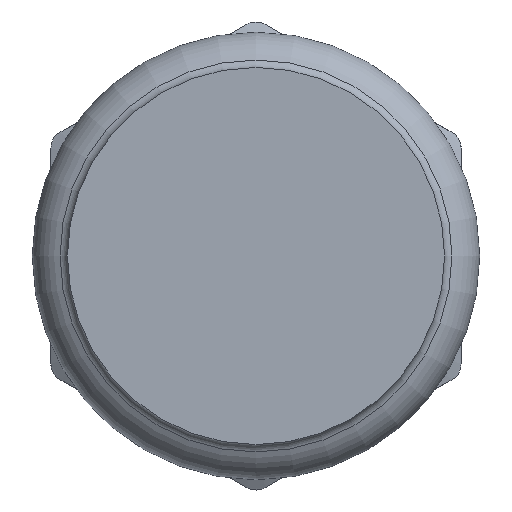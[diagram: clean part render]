
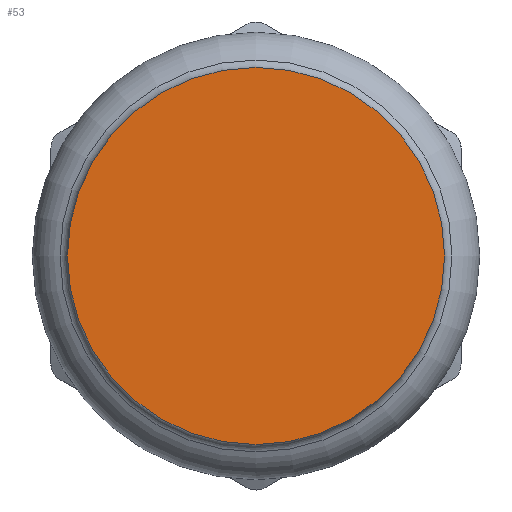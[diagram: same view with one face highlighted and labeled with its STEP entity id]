
A CAD part, front view. The second image highlights one B-rep face of the part: STEP entity #53.
In plain terms, the highlighted planar face has unit normal (0, -1, 0).
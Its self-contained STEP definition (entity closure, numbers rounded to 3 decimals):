
#53=ADVANCED_FACE('',(#78),#80,.F.);
#78=FACE_BOUND('',#79,.T.);
#79=EDGE_LOOP('',(#275));
#80=PLANE('',#81);
#81=AXIS2_PLACEMENT_3D('',#82,#83,#84);
#82=CARTESIAN_POINT('',(0.,0.,0.));
#83=DIRECTION('',(0.,1.,0.));
#84=DIRECTION('',(-1.,0.,0.));
#275=ORIENTED_EDGE('',*,*,#375,.F.);
#375=EDGE_CURVE('',#425,#425,#426,.T.);
#425=VERTEX_POINT('',#513);
#426=CIRCLE('',#514,15.63);
#513=CARTESIAN_POINT('',(0.,0.,15.63));
#514=AXIS2_PLACEMENT_3D('',#515,#516,#517);
#515=CARTESIAN_POINT('',(0.,0.,0.));
#516=DIRECTION('',(0.,1.,0.));
#517=DIRECTION('',(0.,0.,1.));
